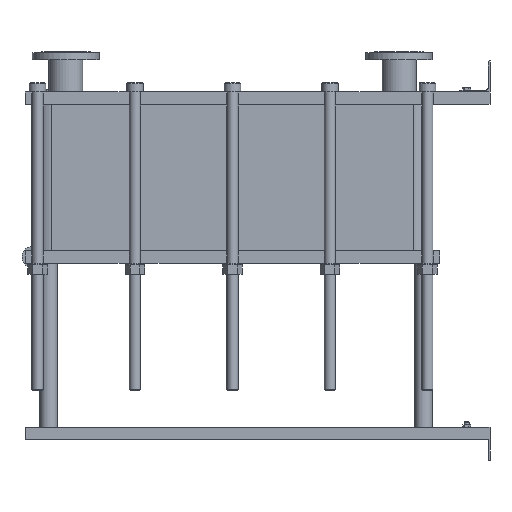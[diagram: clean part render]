
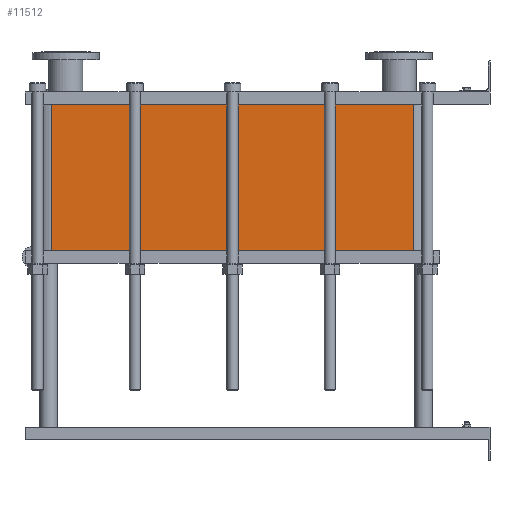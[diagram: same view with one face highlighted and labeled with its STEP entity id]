
A CAD part, left-side view. The second image highlights one B-rep face of the part: STEP entity #11512.
In plain terms, the highlighted planar face has unit normal (-1, 0, 0).
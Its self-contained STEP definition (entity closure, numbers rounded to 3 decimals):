
#1129=LINE('',#23232,#2102);
#1130=LINE('',#23236,#2103);
#1131=LINE('',#23238,#2104);
#1132=LINE('',#23239,#2105);
#2102=VECTOR('',#15887,10.);
#2103=VECTOR('',#15892,10.);
#2104=VECTOR('',#15893,10.);
#2105=VECTOR('',#15894,10.);
#3267=FACE_OUTER_BOUND('',#4093,.T.);
#4093=EDGE_LOOP('',(#10103,#10104,#10105,#10106));
#5642=VERTEX_POINT('',#23229);
#5643=VERTEX_POINT('',#23231);
#5644=VERTEX_POINT('',#23235);
#5645=VERTEX_POINT('',#23237);
#7159=EDGE_CURVE('',#5643,#5642,#1129,.T.);
#7161=EDGE_CURVE('',#5642,#5644,#1130,.T.);
#7162=EDGE_CURVE('',#5645,#5644,#1131,.T.);
#7163=EDGE_CURVE('',#5645,#5643,#1132,.T.);
#10103=ORIENTED_EDGE('',*,*,#7161,.T.);
#10104=ORIENTED_EDGE('',*,*,#7162,.F.);
#10105=ORIENTED_EDGE('',*,*,#7163,.T.);
#10106=ORIENTED_EDGE('',*,*,#7159,.T.);
#10857=PLANE('',#12751);
#11512=ADVANCED_FACE('',(#3267),#10857,.T.);
#12751=AXIS2_PLACEMENT_3D('',#23234,#15890,#15891);
#15887=DIRECTION('',(0.,0.,-1.));
#15890=DIRECTION('center_axis',(-1.,0.,0.));
#15891=DIRECTION('ref_axis',(0.,1.,0.));
#15892=DIRECTION('',(0.,-1.,0.));
#15893=DIRECTION('',(0.,0.,-1.));
#15894=DIRECTION('',(0.,1.,0.));
#23229=CARTESIAN_POINT('',(-200.,1414.,-472.65));
#23231=CARTESIAN_POINT('',(-200.,1414.,0.));
#23232=CARTESIAN_POINT('',(-200.,1414.,0.));
#23234=CARTESIAN_POINT('Origin',(-200.,248.,0.));
#23235=CARTESIAN_POINT('',(-200.,248.,-472.65));
#23236=CARTESIAN_POINT('',(-200.,539.5,-472.65));
#23237=CARTESIAN_POINT('',(-200.,248.,0.));
#23238=CARTESIAN_POINT('',(-200.,248.,0.));
#23239=CARTESIAN_POINT('',(-200.,248.,0.));
